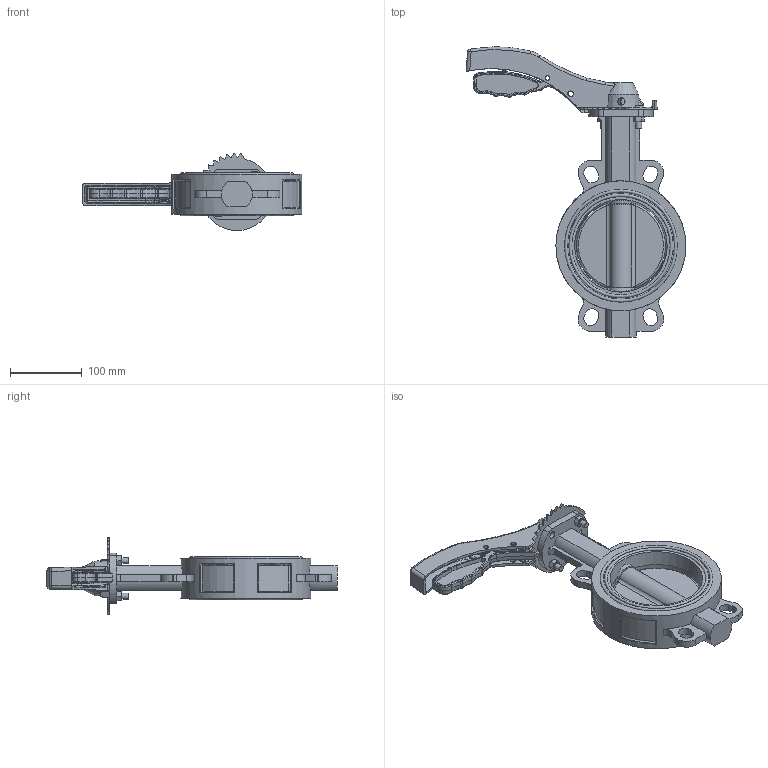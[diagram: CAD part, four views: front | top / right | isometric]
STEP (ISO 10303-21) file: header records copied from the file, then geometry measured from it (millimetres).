
FILE_DESCRIPTION (( 'STEP AP214' ), '1' );
FILE_NAME ('忒梟 勤標評概 Fig.3230-125.STEP', '2026-03-23T06:02:36', ( '' ), ( '' ), 'SwSTEP 2.0', 'SolidWorks 2024', '' );
FILE_SCHEMA (( 'AUTOMOTIVE_DESIGN' ));
Length unit declared in the file: millimetre
Products named in the file (1): 手柄 对夹蝶阀 Fig.3230-125
Bounding box: 306 x 403.89 x 107.39 mm (x, y, z)
Volume: 1279574.8 mm3; surface area: 233600.2 mm2
Topology: 1 solids, 6 shells, 1177 faces, 3331 edges, 2201 vertices
Faces by surface type: plane 772, cylinder 183, bspline 116, cone 78, torus 28
Full cylindrical faces by diameter (mm): 6.303 x1, 6.618 x3, 7.816 x2, 8 x4, 10 x4, 10.085 x1, 11.856 x2, 15.4 x2, 19.1 x1, 24.708 x1, 28 x1, 181 x1
Entity records: 61433 total; most frequent: CARTESIAN_POINT 20081, ORIENTED_EDGE 6514, DIRECTION 4937, EDGE_CURVE 3257, VERTEX_POINT 2175, LINE 2097, VECTOR 2097, AXIS2_PLACEMENT_3D 1420
